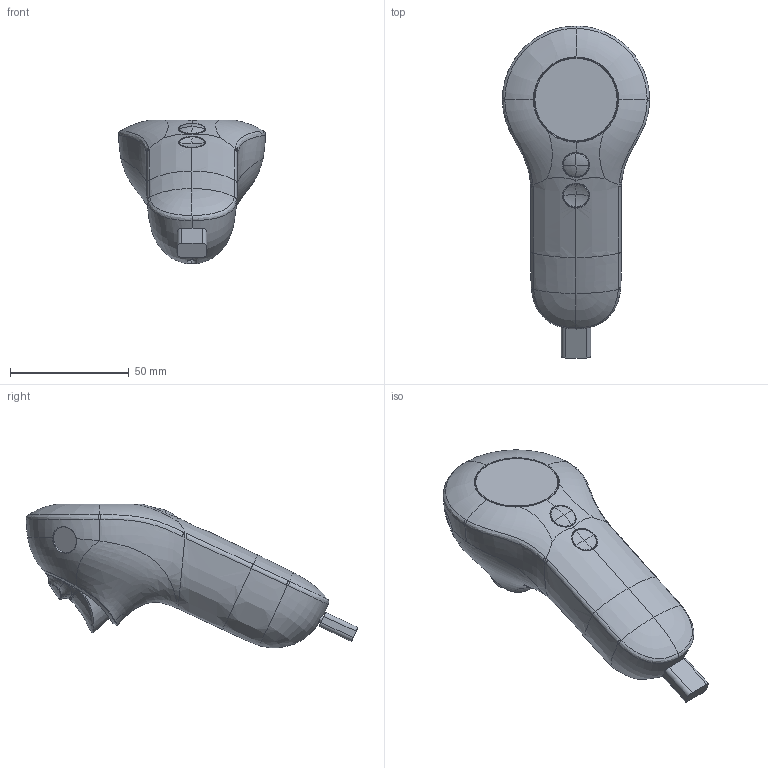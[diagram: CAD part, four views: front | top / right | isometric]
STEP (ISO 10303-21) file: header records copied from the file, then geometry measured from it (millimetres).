
FILE_DESCRIPTION((''),'2;1');
FILE_NAME('ML2_CONTROL_3D-CAD_BASE','2022-11-16T15:21:45',('alopez'),('MAGIC LEAP'),'CREO PARAMETRIC BY PTC INC, 2020281','CREO PARAMETRIC BY PTC INC, 2020281','');
FILE_SCHEMA(('AP242_MANAGED_MODEL_BASED_3D_ENGINEERING_MIM_LF { 1 0 10303 442 1 1 4 }'));
Products named in the file (1): ML2_CONTROL_3D-CAD_BASE
Bounding box: 61.89 x 139.53 x 60.52 mm (x, y, z)
Volume: 164063.2 mm3; surface area: 21201.5 mm2
Topology: 1 solids, 4 shells, 299 faces, 756 edges, 463 vertices
Faces by surface type: bspline 201, plane 43, cylinder 34, extrusion 14, cone 4, torus 2, revolution 1
Entity records: 47041 total; most frequent: CARTESIAN_POINT 41344, ORIENTED_EDGE 1508, EDGE_CURVE 754, B_SPLINE_CURVE_WITH_KNOTS 558, VERTEX_POINT 463, DIRECTION 450, EDGE_LOOP 309, FACE_OUTER_BOUND 299
